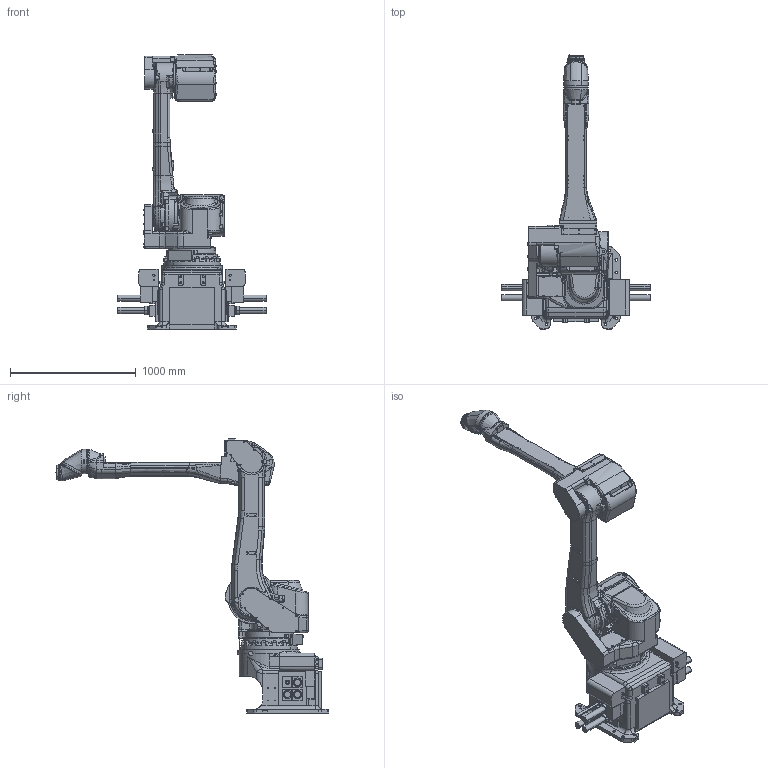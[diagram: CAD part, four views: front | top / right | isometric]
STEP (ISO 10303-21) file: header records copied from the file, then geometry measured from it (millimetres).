
FILE_DESCRIPTION(('CATIA V5 STEP Exchange'),'2;1');
FILE_NAME('D:\モデリング\☆☆☆STEP\KJ\KJ264\KJ264J 国内仕様\KJ264J-B001-FLEX_171002\STEP\20180326\step→Assy\標準\KJ264J-B001-FLOOR.stp','2018-03-27T04:25:26+00:00',('none'),('none'),'CATIA Version 5-6 Release 2016 SP4 HF10','CATIA V5 STEP AP203','none');
FILE_SCHEMA(('CONFIG_CONTROL_DESIGN'));
Products named in the file (1): KJ264J-B001
Assembly tree (7 placements, depth 2):
  KJ264J-B001
    #57
    #26868
    #46370
    #59302
    #92797
    #96301
    #100860
Bounding box: 1178 x 2177.8 x 2181 mm (x, y, z)
Volume: 357459677.5 mm3; surface area: 8408511.5 mm2
Topology: 11 solids, 11 shells, 2173 faces, 7855 edges, 5903 vertices
Faces by surface type: plane 961, cylinder 783, bspline 265, torus 93, cone 47, extrusion 11, sphere 11, revolution 2
Entity records: 111142 total; most frequent: CARTESIAN_POINT 51414, ORIENTED_EDGE 15650, EDGE_CURVE 7825, DIRECTION 7507, VERTEX_POINT 5903, B_SPLINE_CURVE_WITH_KNOTS 3596, AXIS2_PLACEMENT_3D 3300, VECTOR 2579
